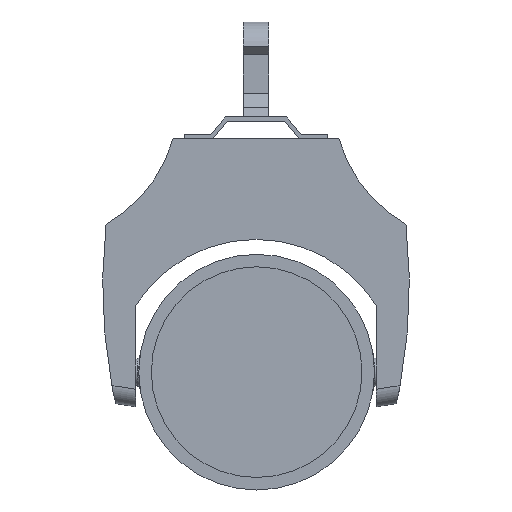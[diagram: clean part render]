
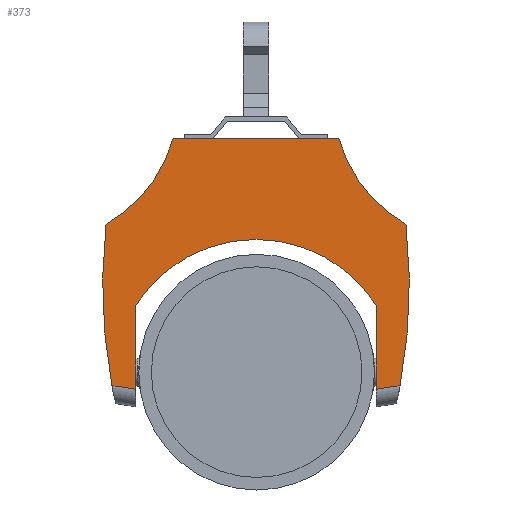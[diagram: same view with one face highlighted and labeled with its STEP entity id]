
A CAD part, left-side view. The second image highlights one B-rep face of the part: STEP entity #373.
In plain terms, the highlighted planar face has unit normal (-1, 0, 0).
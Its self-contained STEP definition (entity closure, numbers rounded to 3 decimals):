
#373 = ADVANCED_FACE( '', ( #752 ), #753, .T. );
#752 = FACE_OUTER_BOUND( '', #1150, .T. );
#753 = PLANE( '', #1151 );
#1150 = EDGE_LOOP( '', ( #1884, #1885, #1886, #1887, #1888, #1889, #1890, #1891, #1892, #1893 ) );
#1151 = AXIS2_PLACEMENT_3D( '', #1894, #1895, #1896 );
#1884 = ORIENTED_EDGE( '', *, *, #2448, .F. );
#1885 = ORIENTED_EDGE( '', *, *, #2509, .T. );
#1886 = ORIENTED_EDGE( '', *, *, #2506, .F. );
#1887 = ORIENTED_EDGE( '', *, *, #2402, .F. );
#1888 = ORIENTED_EDGE( '', *, *, #2240, .F. );
#1889 = ORIENTED_EDGE( '', *, *, #2286, .F. );
#1890 = ORIENTED_EDGE( '', *, *, #2370, .F. );
#1891 = ORIENTED_EDGE( '', *, *, #2510, .T. );
#1892 = ORIENTED_EDGE( '', *, *, #2375, .F. );
#1893 = ORIENTED_EDGE( '', *, *, #2307, .F. );
#1894 = CARTESIAN_POINT( '', ( -45., 253.818, 314.244 ) );
#1895 = DIRECTION( '', ( -1., 0., 0. ) );
#1896 = DIRECTION( '', ( 0., -1., 0. ) );
#2240 = EDGE_CURVE( '', #2596, #2597, #2598, .T. );
#2286 = EDGE_CURVE( '', #2676, #2596, #2677, .T. );
#2307 = EDGE_CURVE( '', #2709, #2710, #2711, .T. );
#2370 = EDGE_CURVE( '', #2815, #2676, #2817, .T. );
#2375 = EDGE_CURVE( '', #2710, #2825, #2826, .T. );
#2402 = EDGE_CURVE( '', #2597, #2868, #2869, .T. );
#2448 = EDGE_CURVE( '', #2935, #2709, #2937, .T. );
#2506 = EDGE_CURVE( '', #2868, #3017, #3018, .T. );
#2509 = EDGE_CURVE( '', #2935, #3017, #3021, .F. );
#2510 = EDGE_CURVE( '', #2815, #2825, #3022, .F. );
#2596 = VERTEX_POINT( '', #3119 );
#2597 = VERTEX_POINT( '', #3120 );
#2598 = LINE( '', #3121, #3122 );
#2676 = VERTEX_POINT( '', #3223 );
#2677 = CIRCLE( '', #3224, 163.705 );
#2709 = VERTEX_POINT( '', #3268 );
#2710 = VERTEX_POINT( '', #3269 );
#2711 = CIRCLE( '', #3270, 165.121 );
#2815 = VERTEX_POINT( '', #3536 );
#2817 = CIRCLE( '', #3565, 632.682 );
#2825 = VERTEX_POINT( '', #3575 );
#2826 = LINE( '', #3576, #3577 );
#2868 = VERTEX_POINT( '', #3661 );
#2869 = CIRCLE( '', #3662, 163.705 );
#2935 = VERTEX_POINT( '', #3849 );
#2937 = LINE( '', #3851, #3852 );
#3017 = VERTEX_POINT( '', #3964 );
#3018 = CIRCLE( '', #3965, 632.682 );
#3021 = LINE( '', #3993, #3994 );
#3022 = LINE( '', #3995, #3996 );
#3119 = CARTESIAN_POINT( '', ( -45., 96.053, 270.545 ) );
#3120 = CARTESIAN_POINT( '', ( -45., -96.053, 270.545 ) );
#3121 = CARTESIAN_POINT( '', ( -45., 96.053, 270.545 ) );
#3122 = VECTOR( '', #4113, 1000. );
#3223 = CARTESIAN_POINT( '', ( -45., 173.684, 171.492 ) );
#3224 = AXIS2_PLACEMENT_3D( '', #4167, #4168, #4169 );
#3268 = CARTESIAN_POINT( '', ( -45., -139.242, 77.374 ) );
#3269 = CARTESIAN_POINT( '', ( -45., 139.242, 77.374 ) );
#3270 = AXIS2_PLACEMENT_3D( '', #4191, #4192, #4193 );
#3536 = CARTESIAN_POINT( '', ( -45., 166.886, -15.485 ) );
#3565 = AXIS2_PLACEMENT_3D( '', #4252, #4253, #4254 );
#3575 = CARTESIAN_POINT( '', ( -45., 139.242, -19.829 ) );
#3576 = CARTESIAN_POINT( '', ( -45., 139.242, -40.074 ) );
#3577 = VECTOR( '', #4260, 1000. );
#3661 = CARTESIAN_POINT( '', ( -45., -173.684, 171.492 ) );
#3662 = AXIS2_PLACEMENT_3D( '', #4285, #4286, #4287 );
#3849 = CARTESIAN_POINT( '', ( -45., -139.242, -19.829 ) );
#3851 = CARTESIAN_POINT( '', ( -45., -139.242, -40.074 ) );
#3852 = VECTOR( '', #4339, 1000. );
#3964 = CARTESIAN_POINT( '', ( -45., -166.886, -15.485 ) );
#3965 = AXIS2_PLACEMENT_3D( '', #4390, #4391, #4392 );
#3993 = CARTESIAN_POINT( '', ( -45., -159.506, -16.645 ) );
#3994 = VECTOR( '', #4393, 1000. );
#3995 = CARTESIAN_POINT( '', ( -45., 136.137, -20.317 ) );
#3996 = VECTOR( '', #4394, 1000. );
#4113 = DIRECTION( '', ( 0., -1., 0. ) );
#4167 = CARTESIAN_POINT( '', ( -45., 253.818, 314.244 ) );
#4168 = DIRECTION( '', ( -1., 0., 0. ) );
#4169 = DIRECTION( '', ( 0., 1., 0. ) );
#4191 = CARTESIAN_POINT( '', ( -45., 0., -11.377 ) );
#4192 = DIRECTION( '', ( -1., 0., 0. ) );
#4193 = DIRECTION( '', ( 0., 1., 0. ) );
#4252 = CARTESIAN_POINT( '', ( -45., -455.029, 100.739 ) );
#4253 = DIRECTION( '', ( 1., 0., 0. ) );
#4254 = DIRECTION( '', ( 0., -1., 0. ) );
#4260 = DIRECTION( '', ( 0., 0., -1. ) );
#4285 = CARTESIAN_POINT( '', ( -45., -253.818, 314.244 ) );
#4286 = DIRECTION( '', ( -1., 0., 0. ) );
#4287 = DIRECTION( '', ( 0., 1., 0. ) );
#4339 = DIRECTION( '', ( 0., 0., 1. ) );
#4390 = CARTESIAN_POINT( '', ( -45., 455.029, 100.739 ) );
#4391 = DIRECTION( '', ( 1., 0., 0. ) );
#4392 = DIRECTION( '', ( 0., 1., 0. ) );
#4393 = DIRECTION( '', ( 0., 0.988, -0.155 ) );
#4394 = DIRECTION( '', ( 0., 0.988, 0.155 ) );
